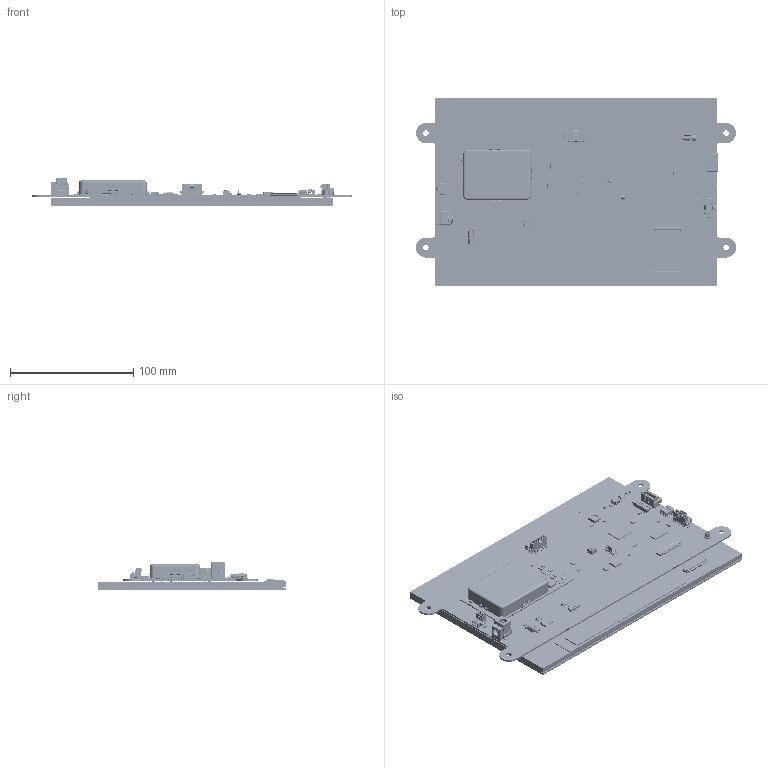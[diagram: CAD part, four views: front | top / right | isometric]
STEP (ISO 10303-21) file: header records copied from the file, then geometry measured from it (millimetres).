
FILE_DESCRIPTION (( 'STEP AP214' ), '1' );
FILE_NAME ('HTT101A-IPS-1280800A (TPC) Rev.A.STEP', '2024-06-19T19:25:32', ( '' ), ( '' ), 'SwSTEP 2.0', 'SolidWorks 2021', '' );
FILE_SCHEMA (( 'AUTOMOTIVE_DESIGN' ));
Length unit declared in the file: millimetre
Products named in the file (6): HTT101A-IPS-1280800A R3.1.1; TPC (TPN10130); HTT101A-IPS-1280800A (TPC) Rev.A; MOP-TFT1280800-10.1A; XF2M_4015_1A
Assembly tree (5 placements, depth 3):
  HTT101A-IPS-1280800A (TPC) Rev.A
    HTT101A-IPS-1280800A R3.1.1
    MOP-TFT1280800-10.1A
      MOP-TFT1280800-10.1A
      XF2M_4015_1A
    TPC (TPN10130)
Bounding box: 260.2 x 152.74 x 22.66 mm (x, y, z)
Volume: 231619.3 mm3; surface area: 379716.2 mm2
Topology: 6 solids, 857 shells, 21606 faces, 58238 edges, 37661 vertices
Faces by surface type: plane 15202, cylinder 3854, bspline 2124, sphere 268, torus 118, cone 40
Entity records: 984509 total; most frequent: CARTESIAN_POINT 249949, ORIENTED_EDGE 114674, DIRECTION 86996, EDGE_CURVE 57991, VERTEX_POINT 37652, LINE 36782, VECTOR 36782, AXIS2_PLACEMENT_3D 25107
